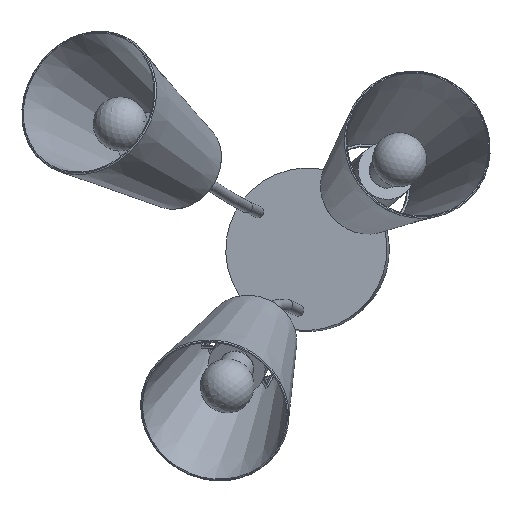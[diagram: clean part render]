
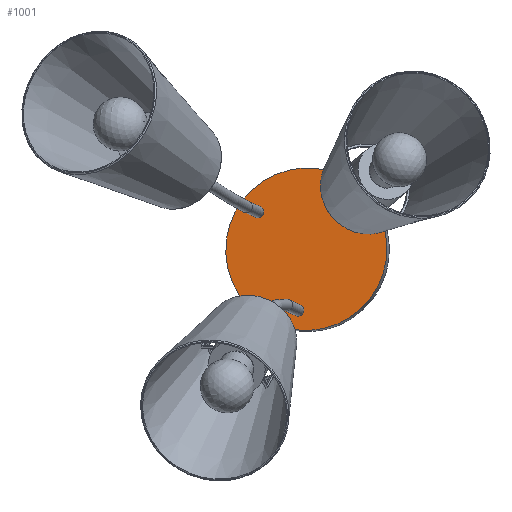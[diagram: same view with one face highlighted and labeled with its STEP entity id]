
A CAD part, front view. The second image highlights one B-rep face of the part: STEP entity #1001.
In plain terms, the highlighted planar face has unit normal (-0.137, -0.989, 0.062) as drawn and (0, 0, 1) by its records, which use the part's own axes.
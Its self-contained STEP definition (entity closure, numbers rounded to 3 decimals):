
#196=PLANE('',#1141);
#244=FACE_BOUND('',#362,.T.);
#245=FACE_BOUND('',#363,.T.);
#246=FACE_BOUND('',#364,.T.);
#285=FACE_OUTER_BOUND('',#361,.T.);
#361=EDGE_LOOP('',(#704));
#362=EDGE_LOOP('',(#705));
#363=EDGE_LOOP('',(#706));
#364=EDGE_LOOP('',(#707));
#435=CIRCLE('',#1115,5.);
#440=CIRCLE('',#1125,5.);
#445=CIRCLE('',#1135,5.);
#446=CIRCLE('',#1138,70.);
#475=VERTEX_POINT('',#1524);
#480=VERTEX_POINT('',#1539);
#485=VERTEX_POINT('',#1554);
#486=VERTEX_POINT('',#1558);
#563=EDGE_CURVE('',#475,#475,#435,.T.);
#568=EDGE_CURVE('',#480,#480,#440,.T.);
#573=EDGE_CURVE('',#485,#485,#445,.T.);
#574=EDGE_CURVE('',#486,#486,#446,.T.);
#704=ORIENTED_EDGE('',*,*,#574,.T.);
#705=ORIENTED_EDGE('',*,*,#563,.T.);
#706=ORIENTED_EDGE('',*,*,#568,.T.);
#707=ORIENTED_EDGE('',*,*,#573,.T.);
#1001=ADVANCED_FACE('',(#285,#244,#245,#246),#196,.T.);
#1115=AXIS2_PLACEMENT_3D('',#1525,#1237,#1238);
#1125=AXIS2_PLACEMENT_3D('',#1540,#1257,#1258);
#1135=AXIS2_PLACEMENT_3D('',#1555,#1277,#1278);
#1138=AXIS2_PLACEMENT_3D('',#1559,#1283,#1284);
#1141=AXIS2_PLACEMENT_3D('',#1563,#1289,#1290);
#1237=DIRECTION('center_axis',(0.,0.,-1.));
#1238=DIRECTION('ref_axis',(0.5,0.866,0.));
#1257=DIRECTION('center_axis',(0.,0.,-1.));
#1258=DIRECTION('ref_axis',(0.5,-0.866,0.));
#1277=DIRECTION('center_axis',(0.,0.,-1.));
#1278=DIRECTION('ref_axis',(-1.,0.,0.));
#1283=DIRECTION('center_axis',(0.,0.,1.));
#1284=DIRECTION('ref_axis',(-1.,0.,0.));
#1289=DIRECTION('center_axis',(0.,0.,1.));
#1290=DIRECTION('ref_axis',(1.,0.,0.));
#1524=CARTESIAN_POINT('',(24.,41.569,15.));
#1525=CARTESIAN_POINT('Origin',(26.5,45.899,15.));
#1539=CARTESIAN_POINT('',(24.,-41.569,15.));
#1540=CARTESIAN_POINT('Origin',(26.5,-45.899,15.));
#1554=CARTESIAN_POINT('',(-48.,0.,15.));
#1555=CARTESIAN_POINT('Origin',(-53.,0.,15.));
#1558=CARTESIAN_POINT('',(70.,0.,15.));
#1559=CARTESIAN_POINT('Origin',(0.,0.,15.));
#1563=CARTESIAN_POINT('Origin',(0.,0.,15.));
